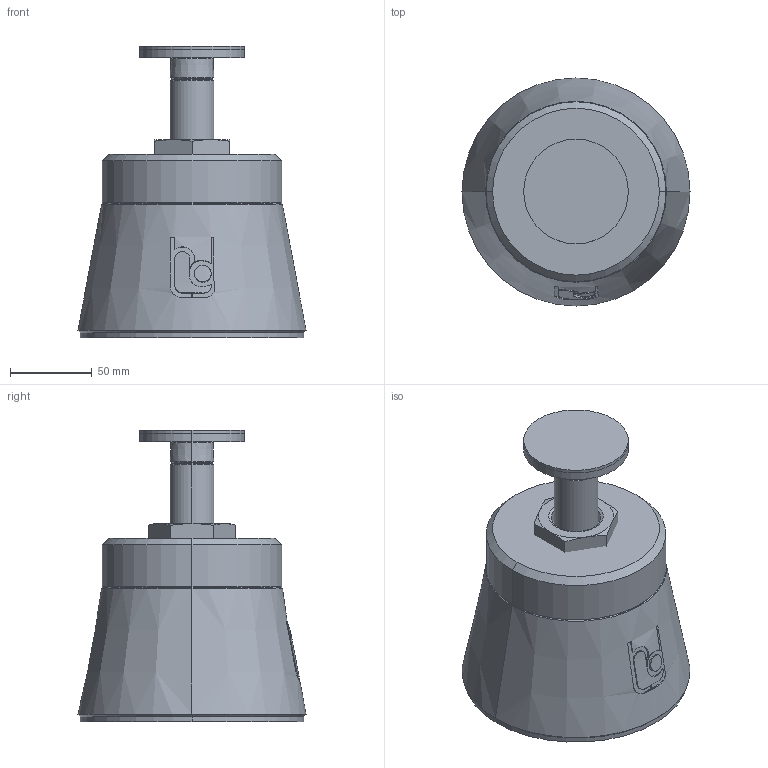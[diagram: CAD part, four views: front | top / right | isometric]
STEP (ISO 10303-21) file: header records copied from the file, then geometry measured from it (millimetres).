
FILE_DESCRIPTION(('STEP AP214'),'1');
FILE_NAME('RSRFS2-05-V1.stp','2018-07-02T06:31:47',(' '),(' '),'Spatial InterOp 3D',' ',' ');
FILE_SCHEMA(('automotive_design'));
Length unit declared in the file: millimetre
Products named in the file (6): 1; 2; 3; 4; 5; 6
Bounding box: 139.44 x 139.44 x 178 mm (x, y, z)
Volume: 1424211.1 mm3; surface area: 146277.2 mm2
Topology: 6 solids, 6 shells, 121 faces, 294 edges, 189 vertices
Faces by surface type: plane 50, cylinder 40, cone 27, torus 4
Entity records: 5182 total; most frequent: CARTESIAN_POINT 1245, DIRECTION 611, ORIENTED_EDGE 588, EDGE_CURVE 294, AXIS2_PLACEMENT_3D 239, VERTEX_POINT 189, LINE 133, VECTOR 133
